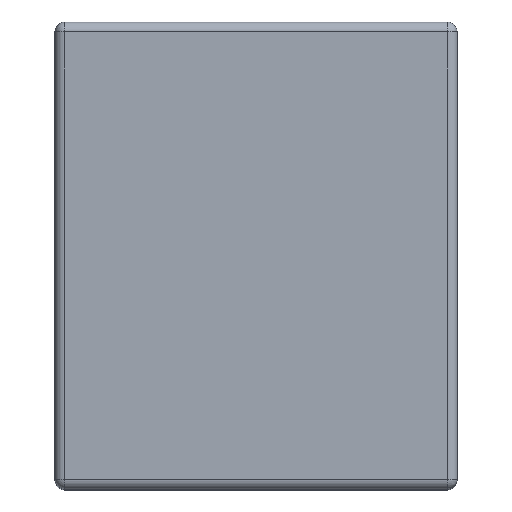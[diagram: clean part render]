
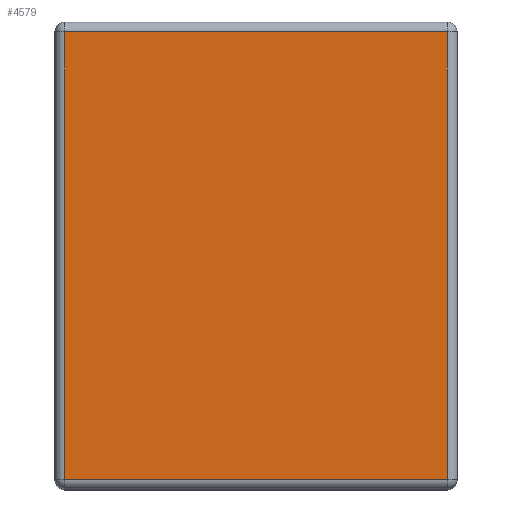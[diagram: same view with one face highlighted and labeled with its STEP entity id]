
A CAD part, top view. The second image highlights one B-rep face of the part: STEP entity #4579.
In plain terms, the highlighted planar face has unit normal (0, 0, 1).
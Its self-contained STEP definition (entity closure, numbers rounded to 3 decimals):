
#193=PLANE('',#4913);
#306=FACE_OUTER_BOUND('',#575,.T.);
#575=EDGE_LOOP('',(#3196,#3197,#3198,#3199));
#864=LINE('',#6364,#1202);
#867=LINE('',#6376,#1205);
#869=LINE('',#6379,#1207);
#876=LINE('',#6401,#1214);
#1202=VECTOR('',#5183,10.);
#1205=VECTOR('',#5198,10.);
#1207=VECTOR('',#5202,10.);
#1214=VECTOR('',#5233,10.);
#1867=VERTEX_POINT('',#6346);
#1868=VERTEX_POINT('',#6350);
#1870=VERTEX_POINT('',#6356);
#1875=VERTEX_POINT('',#6371);
#2370=EDGE_CURVE('',#1870,#1867,#864,.T.);
#2376=EDGE_CURVE('',#1868,#1875,#867,.T.);
#2378=EDGE_CURVE('',#1875,#1870,#869,.T.);
#2390=EDGE_CURVE('',#1867,#1868,#876,.T.);
#3196=ORIENTED_EDGE('',*,*,#2376,.F.);
#3197=ORIENTED_EDGE('',*,*,#2390,.F.);
#3198=ORIENTED_EDGE('',*,*,#2370,.F.);
#3199=ORIENTED_EDGE('',*,*,#2378,.F.);
#4579=ADVANCED_FACE('',(#306),#193,.T.);
#4913=AXIS2_PLACEMENT_3D('',#6403,#5236,#5237);
#5183=DIRECTION('',(0.,1.,0.));
#5198=DIRECTION('',(0.,-1.,0.));
#5202=DIRECTION('',(-1.,0.,0.));
#5233=DIRECTION('',(1.,0.,0.));
#5236=DIRECTION('center_axis',(0.,0.,1.));
#5237=DIRECTION('ref_axis',(-1.,0.,0.));
#6346=CARTESIAN_POINT('',(-15.3,33.2,16.2));
#6350=CARTESIAN_POINT('',(15.3,33.2,16.2));
#6356=CARTESIAN_POINT('',(-15.3,-2.6,16.2));
#6364=CARTESIAN_POINT('',(-15.3,-2.,16.2));
#6371=CARTESIAN_POINT('',(15.3,-2.6,16.2));
#6376=CARTESIAN_POINT('',(15.3,-2.,16.2));
#6379=CARTESIAN_POINT('',(8.05,-2.6,16.2));
#6401=CARTESIAN_POINT('',(8.05,33.2,16.2));
#6403=CARTESIAN_POINT('Origin',(16.1,-2.,16.2));
